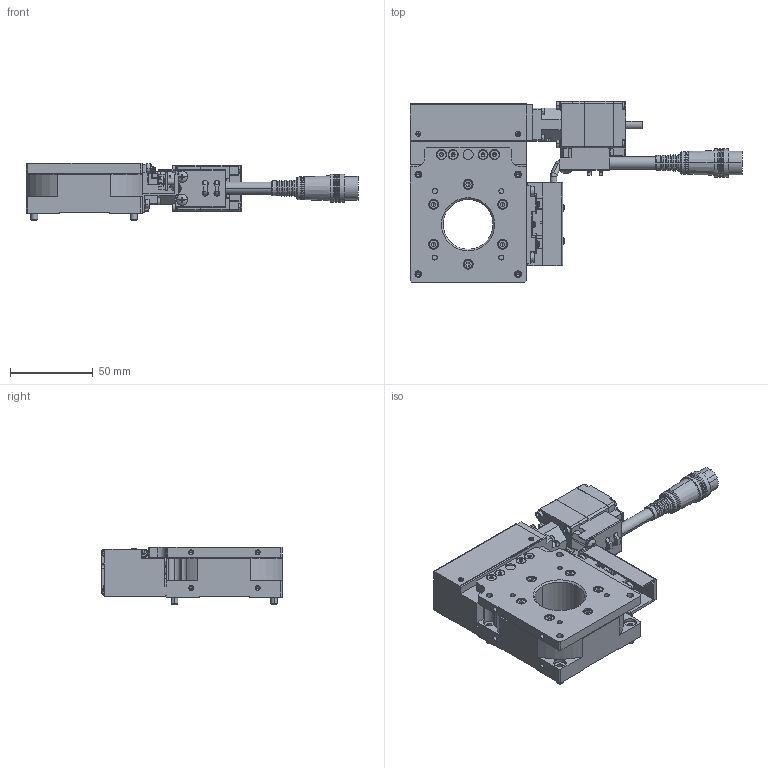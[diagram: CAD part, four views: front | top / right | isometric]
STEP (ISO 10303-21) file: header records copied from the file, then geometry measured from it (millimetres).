
FILE_DESCRIPTION (( 'STEP AP203' ), '1' );
FILE_NAME ('RA07A-T02-R.STEP', '2019-02-20T00:53:56', ( '' ), ( '' ), 'SwSTEP 2.0', 'SolidWorks 2018', '' );
FILE_SCHEMA (( 'CONFIG_CONTROL_DESIGN' ));
Length unit declared in the file: millimetre
Products named in the file (14): base-Part-3; bolt-Part-1-1; bolt-Part-1-3; bolt-2; base; bolt; bolt-Part-1-2; bolt-Part-1; bolt-1; base-Part-1; RA07A-T02-R; table; bolt-3; base-Part-2
Assembly tree (13 placements, depth 3):
  RA07A-T02-R
    bolt
      bolt-Part-1
    bolt-1
      bolt-Part-1-1
    bolt-2
      bolt-Part-1-2
    bolt-3
      bolt-Part-1-3
    base
      base-Part-1
      base-Part-2
      base-Part-3
    table
Bounding box: 200 x 109 x 34.5 mm (x, y, z)
Volume: 239177.6 mm3; surface area: 76125.6 mm2
Topology: 8 solids, 8 shells, 2062 faces, 5117 edges, 3136 vertices
Faces by surface type: plane 1226, cylinder 440, cone 335, torus 38, sphere 23
Entity records: 62742 total; most frequent: CARTESIAN_POINT 11695, DIRECTION 10663, ORIENTED_EDGE 10110, EDGE_CURVE 5055, AXIS2_PLACEMENT_3D 3799, VERTEX_POINT 3133, VECTOR 3065, LINE 3065
